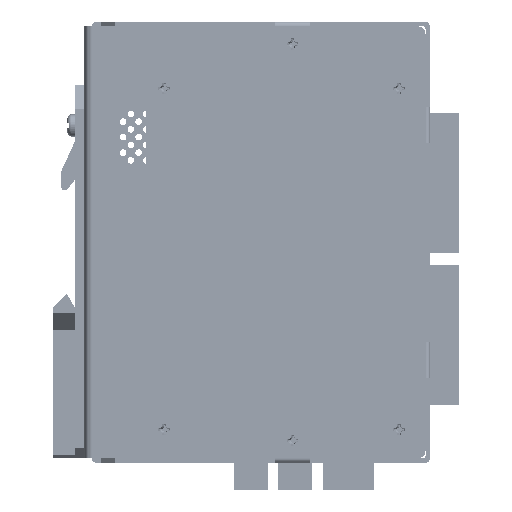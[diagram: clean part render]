
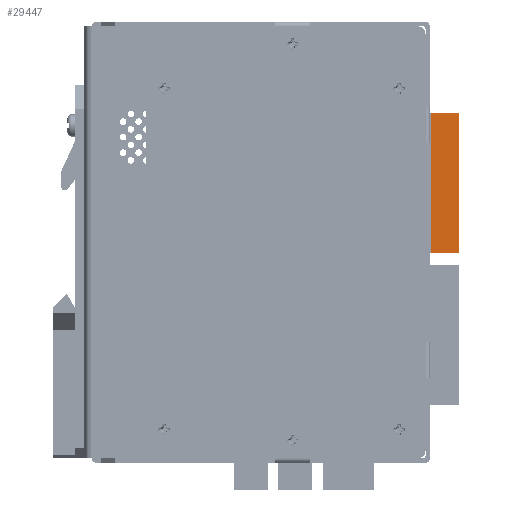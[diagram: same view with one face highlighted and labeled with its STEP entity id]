
A CAD part, left-side view. The second image highlights one B-rep face of the part: STEP entity #29447.
In plain terms, the highlighted planar face has unit normal (-1, 0, 0).
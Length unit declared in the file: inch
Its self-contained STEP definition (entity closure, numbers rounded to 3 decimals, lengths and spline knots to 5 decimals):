
#19097 = EDGE_CURVE( '', #40787, #36425, #53815, .T. );
#29447 = ADVANCED_FACE( '', ( #65346 ), #65347, .F. );
#31325 = EDGE_CURVE( '', #35157, #43159, #67437, .T. );
#35157 = VERTEX_POINT( '', #71787 );
#36425 = VERTEX_POINT( '', #73189 );
#39659 = EDGE_CURVE( '', #43159, #40787, #76786, .T. );
#40345 = EDGE_CURVE( '', #35157, #36425, #77550, .T. );
#40787 = VERTEX_POINT( '', #78035 );
#43159 = VERTEX_POINT( '', #80759 );
#53815 = LINE( '', #93392, #93393 );
#65346 = FACE_OUTER_BOUND( '', #109533, .T. );
#65347 = PLANE( '', #109534 );
#67437 = LINE( '', #112412, #112413 );
#71787 = CARTESIAN_POINT( '', ( 0.415, -0.064, 3.89773 ) );
#73189 = CARTESIAN_POINT( '', ( 0.415, -0.38, 3.89773 ) );
#76786 = LINE( '', #125601, #125602 );
#77550 = LINE( '', #126645, #126646 );
#78035 = CARTESIAN_POINT( '', ( 0.415, -0.38, 2.315 ) );
#80759 = CARTESIAN_POINT( '', ( 0.415, -0.064, 2.315 ) );
#93392 = CARTESIAN_POINT( '', ( 0.415, -0.38, 2.315 ) );
#93393 = VECTOR( '', #146814, 1. );
#109533 = EDGE_LOOP( '', ( #160156, #160157, #160158, #160159 ) );
#109534 = AXIS2_PLACEMENT_3D( '', #160160, #160161, #160162 );
#112412 = CARTESIAN_POINT( '', ( 0.415, -0.064, 3.50205 ) );
#112413 = VECTOR( '', #162700, 1. );
#125601 = CARTESIAN_POINT( '', ( 0.415, -0.05, 2.315 ) );
#125602 = VECTOR( '', #173929, 1. );
#126645 = CARTESIAN_POINT( '', ( 0.415, -0.05, 3.89773 ) );
#126646 = VECTOR( '', #174838, 1. );
#146814 = DIRECTION( '', ( 0., 0., 1. ) );
#160156 = ORIENTED_EDGE( '', *, *, #31325, .T. );
#160157 = ORIENTED_EDGE( '', *, *, #39659, .T. );
#160158 = ORIENTED_EDGE( '', *, *, #19097, .T. );
#160159 = ORIENTED_EDGE( '', *, *, #40345, .F. );
#160160 = CARTESIAN_POINT( '', ( 0.415, -0.215, 3.10636 ) );
#160161 = DIRECTION( '', ( 1., 0., 0. ) );
#160162 = DIRECTION( '', ( 0., 0., -1. ) );
#162700 = DIRECTION( '', ( 0., 0., -1. ) );
#173929 = DIRECTION( '', ( 0., -1., 0. ) );
#174838 = DIRECTION( '', ( 0., -1., 0. ) );
